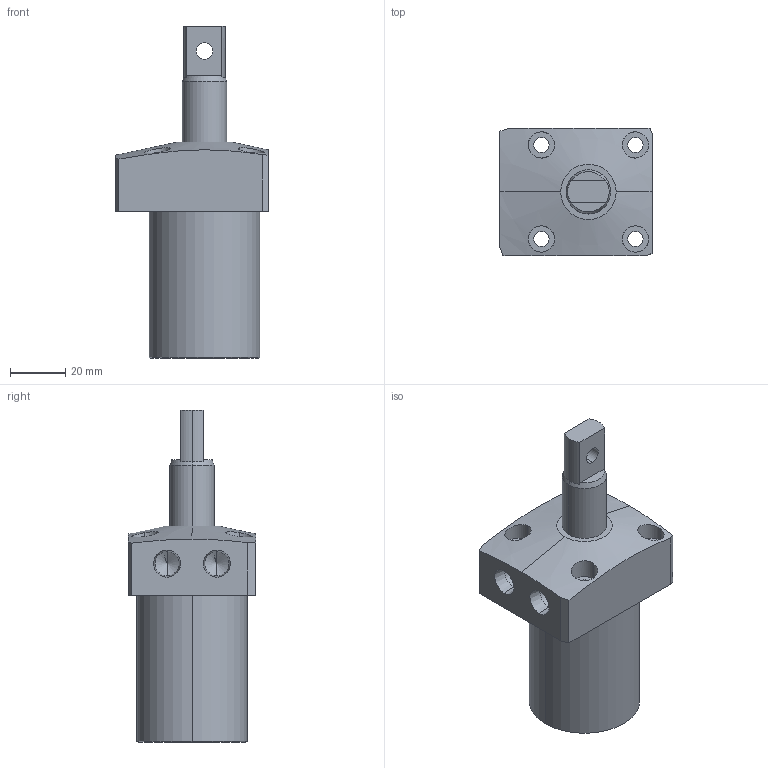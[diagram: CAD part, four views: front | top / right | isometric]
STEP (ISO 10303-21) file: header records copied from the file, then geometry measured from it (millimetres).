
FILE_DESCRIPTION (( 'STEP AP214' ), '1' );
FILE_NAME ('SC02-401-RP-TOP.STEP', '2021-08-22T05:28:01', ( '' ), ( '' ), 'SwSTEP 2.0', 'SolidWorks 2019', '' );
FILE_SCHEMA (( 'AUTOMOTIVE_DESIGN' ));
Length unit declared in the file: millimetre
Products named in the file (3): SC02-401-RP-TOP; PTYPE-PISTON; SC02-40-BODY
Assembly tree (2 placements, depth 2):
  SC02-401-RP-TOP
    SC02-40-BODY
    PTYPE-PISTON
Bounding box: 55 x 46 x 120.03 mm (x, y, z)
Volume: 120927.8 mm3; surface area: 25453.1 mm2
Topology: 2 solids, 2 shells, 73 faces, 170 edges, 107 vertices
Faces by surface type: cylinder 35, plane 24, cone 14
Entity records: 2503 total; most frequent: CARTESIAN_POINT 703, DIRECTION 373, ORIENTED_EDGE 332, EDGE_CURVE 166, AXIS2_PLACEMENT_3D 151, VERTEX_POINT 107, EDGE_LOOP 93, ADVANCED_FACE 73
